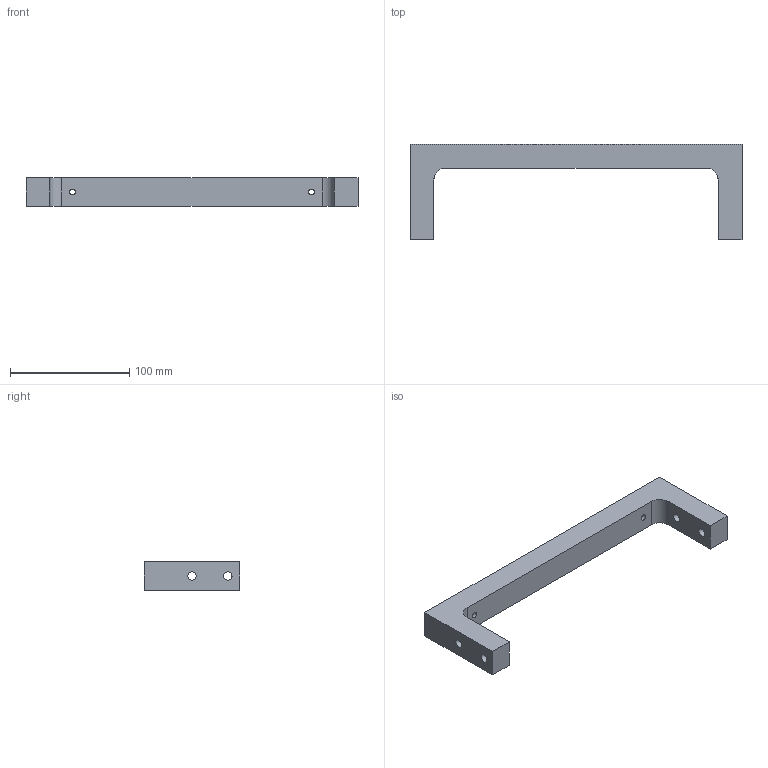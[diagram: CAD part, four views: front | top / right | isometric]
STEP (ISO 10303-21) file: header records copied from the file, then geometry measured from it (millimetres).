
FILE_DESCRIPTION(('STEP AP203'), '1');
FILE_NAME('ﾒﾏﾏﾔ1800.01.01.09.007 - ﾐ裔', '', ('UNSPECIFIED'), ('UNSPECIFIED'), 'C3D Converter', 'C3D Toolkit', '');
FILE_SCHEMA(('CONFIG_CONTROL_DESIGN'));
Length unit declared in the file: millimetre
Products named in the file (1): ТППФ1800.01.01.09.007
Bounding box: 278 x 80 x 24 mm (x, y, z)
Volume: 188214.1 mm3; surface area: 37841.7 mm2
Topology: 1 solids, 1 shells, 20 faces, 52 edges, 34 vertices
Faces by surface type: plane 10, cylinder 8, cone 2
Full cylindrical faces by diameter (mm): 4.917 x2, 7 x4
Entity records: 802 total; most frequent: DIRECTION 104, CARTESIAN_POINT 99, ORIENTED_EDGE 88, EDGE_CURVE 44, EDGE_LOOP 40, AXIS2_PLACEMENT_3D 39, VERTEX_POINT 34, LINE 26
